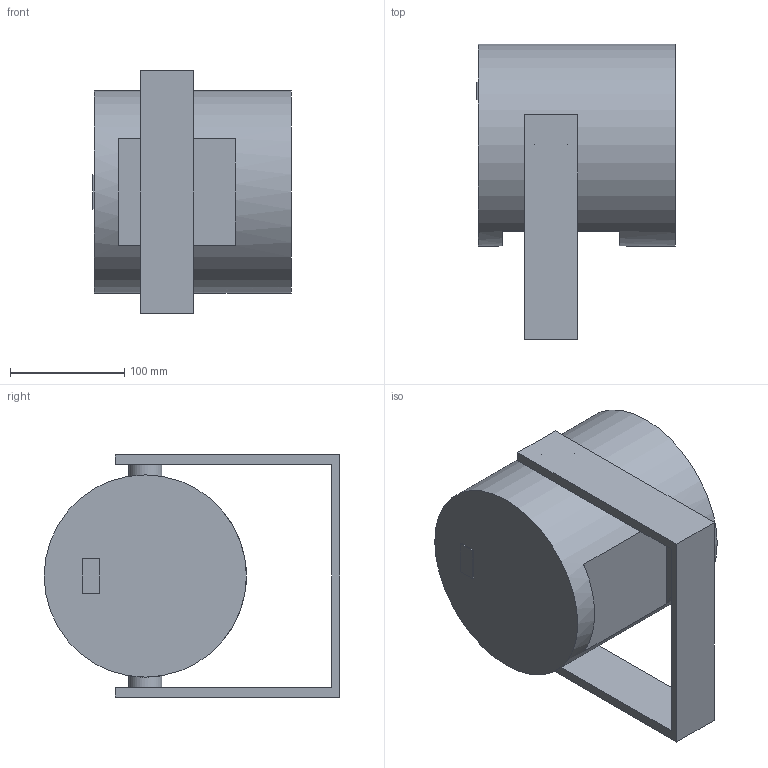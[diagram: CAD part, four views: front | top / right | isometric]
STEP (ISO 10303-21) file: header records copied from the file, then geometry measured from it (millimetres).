
FILE_DESCRIPTION(/* description */ (''),/* implementation_level */ '2;1');
FILE_NAME(/* name */ 'Well Pod 3_90.stp',/* time_stamp */ '2025-04-25T14:56:21-04:00',/* author */ ('chenry'),/* organization */ (''),/* preprocessor_version */ 'ST-DEVELOPER v20',/* originating_system */ 'Autodesk Inventor 2024',/* authorisation */ '');
FILE_SCHEMA (('AUTOMOTIVE_DESIGN { 1 0 10303 214 3 1 1 }'));
Length unit declared in the file: millimetre
Products named in the file (3): 0-CH-W19QB-IP-ALL_ASM; body_0; Braket_0
Assembly tree (2 placements, depth 2):
  0-CH-W19QB-IP-ALL_ASM
    body_0
    Braket_0
Bounding box: 174.4 x 259.21 x 212.4 mm (x, y, z)
Volume: 4241498.7 mm3; surface area: 219555.1 mm2
Topology: 2 solids, 2 shells, 33 faces, 64 edges, 43 vertices
Faces by surface type: plane 26, cylinder 7
Full cylindrical faces by diameter (mm): 28.929 x5, 148.692 x1, 177.283 x1
Entity records: 996 total; most frequent: CARTESIAN_POINT 179, DIRECTION 153, ORIENTED_EDGE 128, EDGE_CURVE 64, AXIS2_PLACEMENT_3D 53, LINE 47, VECTOR 47, VERTEX_POINT 43
